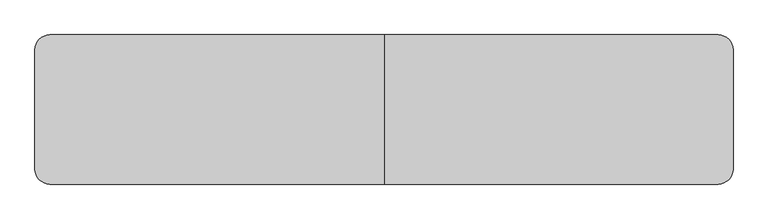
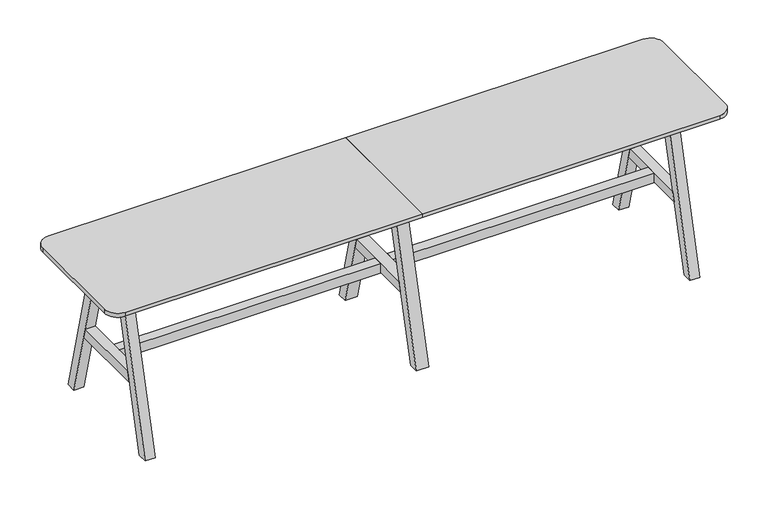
"""IFC4 building model written with IfcOpenShell, lengths in millimetres: furniture geometry, BDG_BossDesign_Tbls_AgentTables6Legs : AGE-DT-6L-2800-600-3D."""

from ifc_helpers import new_model, si_unit, point, frame, frame_2d, origin, place, context, project, spatial, polyline, circle_curve, trimmed, segment, composite_curve, outline, extrude, source, transform, mapped, element, save


def furniture_93a14fa1(model_context):
    return source(origin(), model_context, "Body", "SweptSolid", [
        extrude(outline(polyline([(300.0, 0.0), (254.9999949, 0.0), (85.5, 660.0), (130.5000051, 660.0), (300.0, 0.0)])), frame((-27.5, 0.0, 0.0), z_axis=(1.0, 0.0, 0.0), x_axis=(0.0, 1.0, 0.0)), (0.0, 0.0, 1.0), 55.0),
        extrude(outline(polyline([(-300.0, 0.0), (-130.5000051, 660.0), (-85.5, 660.0), (-254.9999949, 0.0), (-300.0, 0.0)])), frame((-27.5, 0.0, 0.0), z_axis=(1.0, 0.0, 0.0), x_axis=(0.0, 1.0, 0.0)), (0.0, 0.0, 1.0), 55.0),
        extrude(outline(polyline([(177.9545427, 300.0), (-177.9545427, 300.0), (-166.3977249, 345.0), (166.3977249, 345.0), (177.9545427, 300.0)])), frame((-27.5, 0.0, 0.0), z_axis=(1.0, 0.0, 0.0), x_axis=(0.0, 1.0, 0.0)), (0.0, 0.0, 1.0), 55.0),
        extrude(outline(composite_curve([segment(polyline([(0.0, 300.0), (0.0, -300.0), (-1340.0, -300.0)]), True, "CONTINUOUS"), segment(trimmed(circle_curve(frame_2d((-1340.0, -240.0)), 60.0), [point((-1340.0, -300.0))], [point((-1400.0, -240.0))], False, "CARTESIAN"), True, "CONTINUOUS"), segment(polyline([(-1400.0, -240.0), (-1400.0, 240.0)]), True, "CONTINUOUS"), segment(trimmed(circle_curve(frame_2d((-1340.0, 240.0)), 60.0), [point((-1400.0, 240.0))], [point((-1340.0, 300.0))], False, "CARTESIAN"), True, "CONTINUOUS"), segment(polyline([(-1340.0, 300.0), (0.0, 300.0)]), True, "CONTINUOUS")], self_intersect=False)), frame((0.0, 0.0, 722.0), z_axis=(0.0, 0.0, 1.0), x_axis=(1.0, 0.0, 0.0)), (0.0, 0.0, 1.0), 18.0),
        extrude(outline(polyline([(-166.3977249, 345.0), (166.3977249, 345.0), (177.9545427, 300.0), (-177.9545427, 300.0), (-166.3977249, 345.0)])), frame((1205.0, 0.0, 0.0), z_axis=(1.0, 0.0, 0.0), x_axis=(0.0, 1.0, 0.0)), (0.0, 0.0, 1.0), 45.0),
        extrude(outline(polyline([(300.0, 0.0), (254.9999949, 0.0), (85.5, 660.0), (130.5000051, 660.0), (300.0, 0.0)])), frame((-1250.0, 0.0, 0.0), z_axis=(1.0, 0.0, 0.0), x_axis=(0.0, 1.0, 0.0)), (0.0, 0.0, 1.0), 45.0),
        extrude(outline(polyline([(-300.0, 0.0), (-130.5000051, 660.0), (-85.5, 660.0), (-254.9999949, 0.0), (-300.0, 0.0)])), frame((-1250.0, 0.0, 0.0), z_axis=(1.0, 0.0, 0.0), x_axis=(0.0, 1.0, 0.0)), (0.0, 0.0, 1.0), 45.0),
        extrude(outline(polyline([(-166.3977249, 345.0), (166.3977249, 345.0), (177.9545427, 300.0), (-177.9545427, 300.0), (-166.3977249, 345.0)])), frame((-1250.0, 0.0, 0.0), z_axis=(1.0, 0.0, 0.0), x_axis=(0.0, 1.0, 0.0)), (0.0, 0.0, 1.0), 45.0),
        extrude(outline(polyline([(-126.6006165, 634.973938), (-104.2770691, 722.0), (-79.5, 722.0), (-101.8235474, 634.973938), (-126.6006165, 634.973938)])), frame((-1205.0, 0.0, 0.0), z_axis=(1.0, 0.0, 0.0), x_axis=(0.0, 1.0, 0.0)), (0.0, 0.0, 1.0), 2410.0),
        extrude(outline(polyline([(126.6006165, 634.973938), (101.8235474, 634.973938), (79.5, 722.0), (104.2770691, 722.0), (126.6006165, 634.973938)])), frame((-1205.0, 0.0, 0.0), z_axis=(1.0, 0.0, 0.0), x_axis=(0.0, 1.0, 0.0)), (0.0, 0.0, 1.0), 2410.0),
        extrude(outline(polyline([(299.7999878, 0.0), (254.7999827, 0.0), (85.5, 660.0), (130.5000051, 660.0), (299.7999878, 0.0)])), frame((1205.0, 0.0, 0.0), z_axis=(1.0, 0.0, 0.0), x_axis=(0.0, 1.0, 0.0)), (0.0, 0.0, 1.0), 45.0),
        extrude(outline(polyline([(-299.7999878, 0.0), (-130.5000051, 660.0), (-85.5, 660.0), (-254.7999827, 0.0), (-299.7999878, 0.0)])), frame((1205.0, 0.0, 0.0), z_axis=(1.0, 0.0, 0.0), x_axis=(0.0, 1.0, 0.0)), (0.0, 0.0, 1.0), 45.0),
        extrude(outline(polyline([(-27.5, 22.5000305), (-27.5, -22.5000305), (-1205.0, -22.5000305), (-1205.0, 22.5000305), (-27.5, 22.5000305)])), frame((0.0, 0.0, 300.0), z_axis=(0.0, 0.0, 1.0), x_axis=(1.0, 0.0, 0.0)), (0.0, 0.0, 1.0), 45.0),
        extrude(outline(polyline([(27.5, -22.5000305), (27.5, 22.5000305), (1205.0, 22.5000305), (1205.0, -22.5000305), (27.5, -22.5000305)])), frame((0.0, 0.0, 300.0), z_axis=(0.0, 0.0, 1.0), x_axis=(1.0, 0.0, 0.0)), (0.0, 0.0, 1.0), 45.0),
        extrude(outline(composite_curve([segment(trimmed(circle_curve(frame_2d((1340.0, 240.0)), 60.0), [point((1340.0, 300.0))], [point((1400.0, 240.0))], False, "CARTESIAN"), True, "CONTINUOUS"), segment(polyline([(1400.0, 240.0), (1400.0, -240.0)]), True, "CONTINUOUS"), segment(trimmed(circle_curve(frame_2d((1340.0, -240.0)), 60.0), [point((1400.0, -240.0))], [point((1340.0, -300.0))], False, "CARTESIAN"), True, "CONTINUOUS"), segment(polyline([(1340.0, -300.0), (0.0, -300.0), (0.0, 300.0), (1340.0, 300.0)]), True, "CONTINUOUS")], self_intersect=False)), frame((0.0, 0.0, 722.0), z_axis=(0.0, 0.0, 1.0), x_axis=(1.0, 0.0, 0.0)), (0.0, 0.0, 1.0), 18.0),
    ])


if __name__ == "__main__":
    model = new_model("IFC4")
    model_context = context("Model", 3, world=origin())
    ifc_project = project(units=[si_unit("LENGTHUNIT", "METRE", prefix="MILLI")], contexts=[model_context])
    site = spatial("IfcSite", under=ifc_project)
    building = spatial("IfcBuilding", under=site)
    placement = place(None, origin())
    furniture_shape = furniture_93a14fa1(model_context)
    element("IfcFurniture", 1, ObjectType="BDG_BossDesign_Tbls_AgentTables6Legs : AGE-DT-6L-2800-600-3D", at=placement, inside=building, context=model_context, shape_type="MappedRepresentation", body=[
        mapped(furniture_shape, transform((0.0, 0.0, 0.0), x_axis=(1.0, 0.0, 0.0), y_axis=(0.0, 1.0, 0.0), z_axis=(0.0, 0.0, 1.0))),
    ])
    save(model, "model.ifc")
